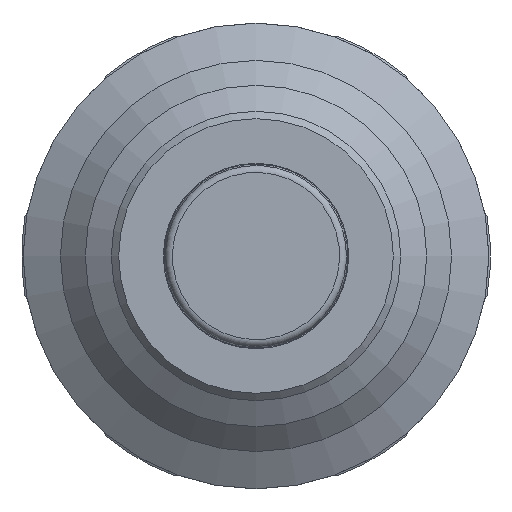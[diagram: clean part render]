
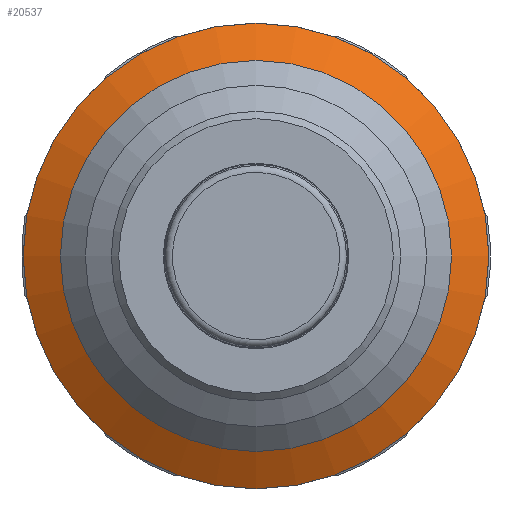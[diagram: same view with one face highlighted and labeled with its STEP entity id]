
A CAD part, front view. The second image highlights one B-rep face of the part: STEP entity #20537.
In plain terms, the highlighted conical face has half-angle 60 degrees and reference radius 14.623 mm.
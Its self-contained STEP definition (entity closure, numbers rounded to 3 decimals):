
#1263=LINE('',#34513,#2459);
#2459=VECTOR('',#22885,14.623);
#3186=CONICAL_SURFACE('',#21434,14.623,1.047);
#6360=FACE_OUTER_BOUND('',#7467,.T.);
#7467=EDGE_LOOP('',(#16182,#16183,#16184,#16185,#16186));
#8250=CIRCLE('',#21429,13.35);
#8251=CIRCLE('',#21430,13.35);
#8253=CIRCLE('',#21433,15.896);
#9346=VERTEX_POINT('',#34502);
#9347=VERTEX_POINT('',#34504);
#9349=VERTEX_POINT('',#34510);
#11826=EDGE_CURVE('',#9347,#9346,#8250,.T.);
#11827=EDGE_CURVE('',#9346,#9347,#8251,.T.);
#11829=EDGE_CURVE('',#9349,#9349,#8253,.T.);
#11830=EDGE_CURVE('',#9347,#9349,#1263,.T.);
#16182=ORIENTED_EDGE('',*,*,#11826,.T.);
#16183=ORIENTED_EDGE('',*,*,#11827,.T.);
#16184=ORIENTED_EDGE('',*,*,#11830,.T.);
#16185=ORIENTED_EDGE('',*,*,#11829,.T.);
#16186=ORIENTED_EDGE('',*,*,#11830,.F.);
#20537=ADVANCED_FACE('',(#6360),#3186,.T.);
#21429=AXIS2_PLACEMENT_3D('',#34505,#22873,#22874);
#21430=AXIS2_PLACEMENT_3D('',#34506,#22875,#22876);
#21433=AXIS2_PLACEMENT_3D('',#34511,#22881,#22882);
#21434=AXIS2_PLACEMENT_3D('',#34512,#22883,#22884);
#22873=DIRECTION('center_axis',(0.,1.,0.));
#22874=DIRECTION('ref_axis',(-1.,0.,0.));
#22875=DIRECTION('center_axis',(0.,1.,0.));
#22876=DIRECTION('ref_axis',(-1.,0.,0.));
#22881=DIRECTION('center_axis',(0.,-1.,0.));
#22882=DIRECTION('ref_axis',(-1.,0.,0.));
#22883=DIRECTION('center_axis',(0.,1.,0.));
#22884=DIRECTION('ref_axis',(-1.,0.,0.));
#22885=DIRECTION('',(0.866,0.5,0.));
#34502=CARTESIAN_POINT('',(-13.35,12.785,0.));
#34504=CARTESIAN_POINT('',(13.35,12.785,0.));
#34505=CARTESIAN_POINT('Origin',(0.,12.785,0.));
#34506=CARTESIAN_POINT('Origin',(0.,12.785,0.));
#34510=CARTESIAN_POINT('',(15.896,14.255,0.));
#34511=CARTESIAN_POINT('Origin',(0.,14.255,0.));
#34512=CARTESIAN_POINT('Origin',(0.,13.52,0.));
#34513=CARTESIAN_POINT('',(14.623,13.52,0.));
